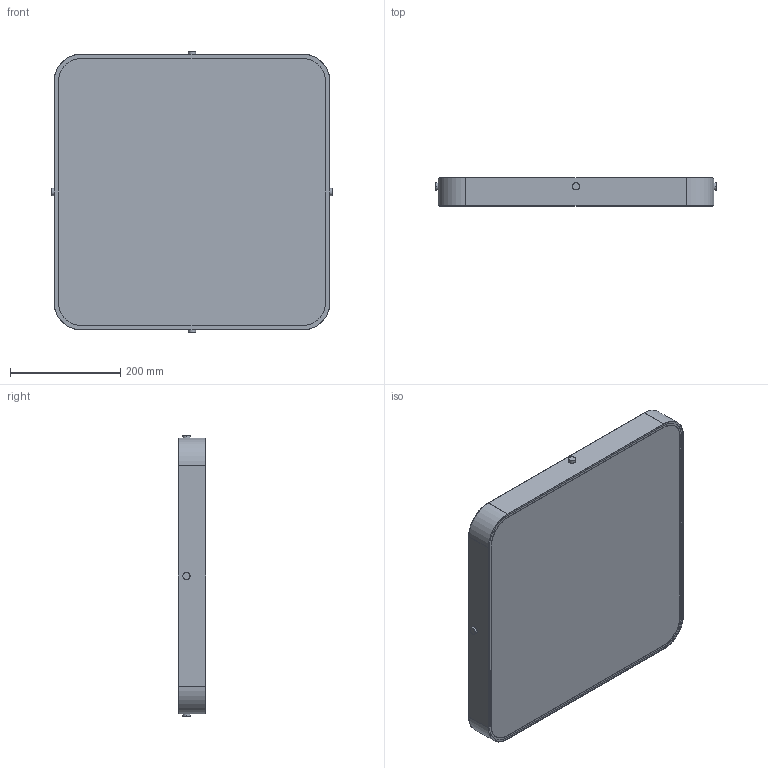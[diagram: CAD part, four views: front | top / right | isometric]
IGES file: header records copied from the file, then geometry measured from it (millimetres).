
Start section: SolidWorks IGES file using analytic representation for surfaces
Global section: file name: F:\燠隴矨\3D\2026-3\Calista Alabaster Ceiling Light-L50xW50cm.IGS,15; native system: HSolidWorks 2022; preprocessor: SolidWorks 2022; author: MyPC; date: 260304.081007; units: millimetre
Bounding box: 510 x 50 x 510 mm (x, y, z)
Surface area: 1243808.6 mm2 (no closed solid volume)
Topology: 0 solids, 0 shells, 96 faces, 1488 edges, 1488 vertices
Faces by surface type: revolution 48, bspline 48
